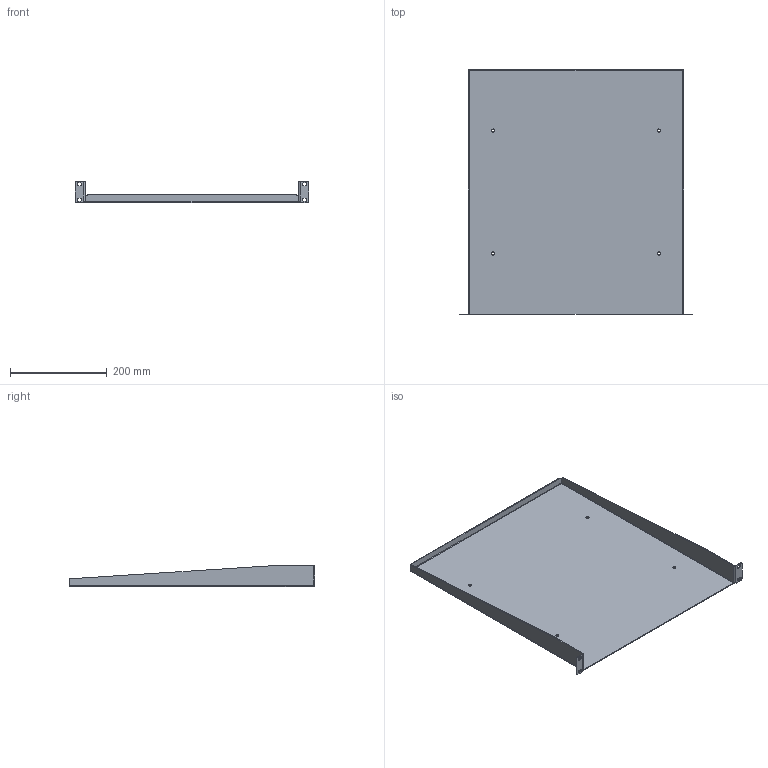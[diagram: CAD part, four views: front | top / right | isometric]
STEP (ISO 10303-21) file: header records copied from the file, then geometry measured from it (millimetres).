
FILE_DESCRIPTION( ( 'Unknown' ), '1' );
FILE_NAME( 'Q:/ACCESSORIES/SHELVES/RK _ RMA/WEB DRAWINGS/STEP/RASU190120.stp', 'Unknown', ( 'Unknown' ), ( 'Unknown' ), 'PSStep 10.1', 'Unknown', ' ' );
FILE_SCHEMA( ( 'AUTOMOTIVE_DESIGN { 1 0 10303 214 1 1 1 1 }' ) );
Length unit declared in the file: millimetre
Products named in the file (1): 1
Bounding box: 482.75 x 508 x 43.64 mm (x, y, z)
Volume: 478785.8 mm3; surface area: 527836.2 mm2
Topology: 1 solids, 1 shells, 84 faces, 226 edges, 144 vertices
Faces by surface type: plane 48, cylinder 32, bspline 4
Full cylindrical faces by diameter (mm): 6.35 x4
Entity records: 2885 total; most frequent: CARTESIAN_POINT 747, ORIENTED_EDGE 444, DIRECTION 428, EDGE_CURVE 222, AXIS2_PLACEMENT_3D 145, VERTEX_POINT 144, LINE 138, VECTOR 138
